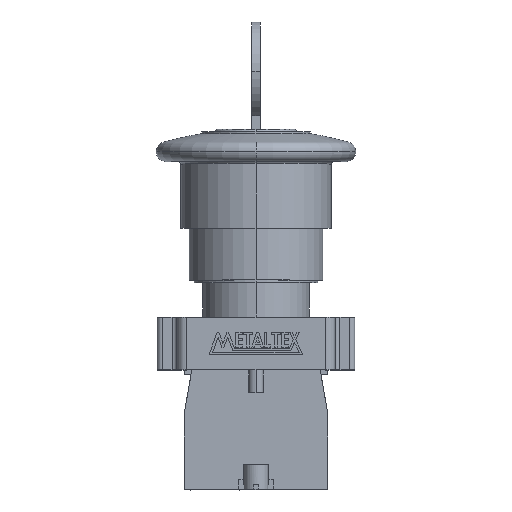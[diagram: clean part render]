
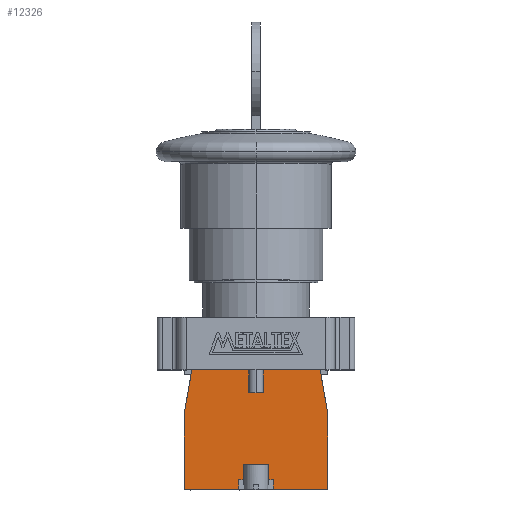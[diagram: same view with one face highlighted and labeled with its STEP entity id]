
A CAD part, top view. The second image highlights one B-rep face of the part: STEP entity #12326.
In plain terms, the highlighted planar face has unit normal (0, 0, 1).
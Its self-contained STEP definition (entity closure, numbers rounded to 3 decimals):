
#729 = ORIENTED_EDGE ( 'NONE', *, *, #12192, .T. ) ;
#730 = ORIENTED_EDGE ( 'NONE', *, *, #12193, .T. ) ;
#731 = ORIENTED_EDGE ( 'NONE', *, *, #12082, .T. ) ;
#732 = ORIENTED_EDGE ( 'NONE', *, *, #12031, .T. ) ;
#733 = ORIENTED_EDGE ( 'NONE', *, *, #12150, .T. ) ;
#734 = ORIENTED_EDGE ( 'NONE', *, *, #12194, .T. ) ;
#735 = ORIENTED_EDGE ( 'NONE', *, *, #12196, .T. ) ;
#736 = ORIENTED_EDGE ( 'NONE', *, *, #12195, .T. ) ;
#737 = ORIENTED_EDGE ( 'NONE', *, *, #12069, .F. ) ;
#738 = ORIENTED_EDGE ( 'NONE', *, *, #12197, .F. ) ;
#739 = ORIENTED_EDGE ( 'NONE', *, *, #12199, .F. ) ;
#740 = ORIENTED_EDGE ( 'NONE', *, *, #12198, .T. ) ;
#741 = ORIENTED_EDGE ( 'NONE', *, *, #12147, .T. ) ;
#742 = ORIENTED_EDGE ( 'NONE', *, *, #12024, .T. ) ;
#743 = ORIENTED_EDGE ( 'NONE', *, *, #12188, .T. ) ;
#744 = ORIENTED_EDGE ( 'NONE', *, *, #12035, .T. ) ;
#745 = ORIENTED_EDGE ( 'NONE', *, *, #12200, .F. ) ;
#747 = ORIENTED_EDGE ( 'NONE', *, *, #12075, .T. ) ;
#1642 = VERTEX_POINT ( 'NONE', #3569 ) ;
#1643 = VERTEX_POINT ( 'NONE', #3570 ) ;
#1646 = VERTEX_POINT ( 'NONE', #3573 ) ;
#1647 = VERTEX_POINT ( 'NONE', #3574 ) ;
#1665 = VERTEX_POINT ( 'NONE', #3592 ) ;
#1666 = VERTEX_POINT ( 'NONE', #3593 ) ;
#1667 = VERTEX_POINT ( 'NONE', #3594 ) ;
#1707 = VERTEX_POINT ( 'NONE', #3634 ) ;
#1708 = VERTEX_POINT ( 'NONE', #3635 ) ;
#1715 = VERTEX_POINT ( 'NONE', #3642 ) ;
#1717 = VERTEX_POINT ( 'NONE', #3644 ) ;
#1720 = VERTEX_POINT ( 'NONE', #3647 ) ;
#1721 = VERTEX_POINT ( 'NONE', #3648 ) ;
#2168 = VERTEX_POINT ( 'NONE', #4091 ) ;
#2169 = VERTEX_POINT ( 'NONE', #4092 ) ;
#2172 = VERTEX_POINT ( 'NONE', #4095 ) ;
#2173 = VERTEX_POINT ( 'NONE', #4096 ) ;
#2175 = VERTEX_POINT ( 'NONE', #4098 ) ;
#3284 = EDGE_LOOP ( 'NONE', ( #730, #732, #729, #731, #733, #734, #736, #735, #737, #738, #740, #739, #741, #743, #742, #744, #745, #747 ) ) ;
#3569 = CARTESIAN_POINT ( 'NONE',  ( 3.5, 2., 7.45 ) ) ;
#3570 = CARTESIAN_POINT ( 'NONE',  ( -3.5, 0., 7.45 ) ) ;
#3573 = CARTESIAN_POINT ( 'NONE',  ( 14.5, 0., 7.45 ) ) ;
#3574 = CARTESIAN_POINT ( 'NONE',  ( 3.5, 0., 7.45 ) ) ;
#3592 = CARTESIAN_POINT ( 'NONE',  ( 2.6, 2., 7.45 ) ) ;
#3593 = CARTESIAN_POINT ( 'NONE',  ( -2.6, 2., 7.45 ) ) ;
#3594 = CARTESIAN_POINT ( 'NONE',  ( -3.5, 2., 7.45 ) ) ;
#3634 = CARTESIAN_POINT ( 'NONE',  ( -14.5, 15.5, 7.45 ) ) ;
#3635 = CARTESIAN_POINT ( 'NONE',  ( -14.5, 0., 7.45 ) ) ;
#3642 = CARTESIAN_POINT ( 'NONE',  ( -1.5, 19.6, 7.45 ) ) ;
#3644 = CARTESIAN_POINT ( 'NONE',  ( 1.5, 19.6, 7.45 ) ) ;
#3647 = CARTESIAN_POINT ( 'NONE',  ( -2.6, 5., 7.45 ) ) ;
#3648 = CARTESIAN_POINT ( 'NONE',  ( 2.6, 5., 7.45 ) ) ;
#4091 = CARTESIAN_POINT ( 'NONE',  ( 13., 24.2, 7.45 ) ) ;
#4092 = CARTESIAN_POINT ( 'NONE',  ( 14.5, 15.5, 7.45 ) ) ;
#4095 = CARTESIAN_POINT ( 'NONE',  ( -13., 24.2, 7.45 ) ) ;
#4096 = CARTESIAN_POINT ( 'NONE',  ( -1.5, 24.2, 7.45 ) ) ;
#4098 = CARTESIAN_POINT ( 'NONE',  ( 1.5, 24.2, 7.45 ) ) ;
#5876 = VECTOR ( 'NONE', #6945, 1000. ) ;
#5884 = VECTOR ( 'NONE', #6966, 1000. ) ;
#5888 = VECTOR ( 'NONE', #6978, 1000. ) ;
#5921 = VECTOR ( 'NONE', #7080, 1000. ) ;
#5928 = VECTOR ( 'NONE', #7098, 1000. ) ;
#5935 = VECTOR ( 'NONE', #7119, 1000. ) ;
#6943 = LINE ( 'NONE', #6944, #5876 ) ;
#6944 = CARTESIAN_POINT ( 'NONE',  ( 14.5, 15.5, 7.45 ) ) ;
#6945 = DIRECTION ( 'NONE',  ( -0.17, 0.985, 0. ) ) ;
#6964 = LINE ( 'NONE', #6965, #5884 ) ;
#6965 = CARTESIAN_POINT ( 'NONE',  ( 13., 24.2, 7.45 ) ) ;
#6966 = DIRECTION ( 'NONE',  ( -1., 0., 0. ) ) ;
#6976 = LINE ( 'NONE', #6977, #5888 ) ;
#6977 = CARTESIAN_POINT ( 'NONE',  ( 13., 24.2, 7.45 ) ) ;
#6978 = DIRECTION ( 'NONE',  ( -1., 0., 0. ) ) ;
#7078 = LINE ( 'NONE', #7079, #5921 ) ;
#7079 = CARTESIAN_POINT ( 'NONE',  ( 0., 5., 7.45 ) ) ;
#7080 = DIRECTION ( 'NONE',  ( -1., 0., 0. ) ) ;
#7096 = LINE ( 'NONE', #7097, #5928 ) ;
#7097 = CARTESIAN_POINT ( 'NONE',  ( 0., 19.6, 7.45 ) ) ;
#7098 = DIRECTION ( 'NONE',  ( -1., 0., 0. ) ) ;
#7117 = LINE ( 'NONE', #7118, #5935 ) ;
#7118 = CARTESIAN_POINT ( 'NONE',  ( -14.5, 15.5, 7.45 ) ) ;
#7119 = DIRECTION ( 'NONE',  ( 0., -1., 0. ) ) ;
#7532 = LINE ( 'NONE', #7533, #8318 ) ;
#7533 = CARTESIAN_POINT ( 'NONE',  ( -14.5, 0., 7.45 ) ) ;
#7534 = DIRECTION ( 'NONE',  ( 1., 0., 0. ) ) ;
#7541 = LINE ( 'NONE', #7542, #8321 ) ;
#7542 = CARTESIAN_POINT ( 'NONE',  ( -14.5, 0., 7.45 ) ) ;
#7543 = DIRECTION ( 'NONE',  ( 1., 0., 0. ) ) ;
#7655 = LINE ( 'NONE', #7656, #8360 ) ;
#7656 = CARTESIAN_POINT ( 'NONE',  ( 14.5, 0., 7.45 ) ) ;
#7657 = DIRECTION ( 'NONE',  ( 0., 1., 0. ) ) ;
#7667 = LINE ( 'NONE', #7668, #8364 ) ;
#7668 = CARTESIAN_POINT ( 'NONE',  ( -13., 24.2, 7.45 ) ) ;
#7669 = DIRECTION ( 'NONE',  ( -0.17, -0.985, 0. ) ) ;
#7670 = LINE ( 'NONE', #7671, #8365 ) ;
#7671 = CARTESIAN_POINT ( 'NONE',  ( -1.5, 19.6, 7.45 ) ) ;
#7672 = DIRECTION ( 'NONE',  ( 0., 1., 0. ) ) ;
#7673 = LINE ( 'NONE', #7674, #8366 ) ;
#7674 = CARTESIAN_POINT ( 'NONE',  ( -3.5, 0., 7.45 ) ) ;
#7675 = DIRECTION ( 'NONE',  ( 0., 1., 0. ) ) ;
#7676 = LINE ( 'NONE', #7677, #8367 ) ;
#7677 = CARTESIAN_POINT ( 'NONE',  ( 0., 2., 7.45 ) ) ;
#7678 = DIRECTION ( 'NONE',  ( 1., 0., 0. ) ) ;
#7679 = LINE ( 'NONE', #7680, #8368 ) ;
#7680 = CARTESIAN_POINT ( 'NONE',  ( -2.6, 0., 7.45 ) ) ;
#7681 = DIRECTION ( 'NONE',  ( 0., 1., 0. ) ) ;
#7682 = LINE ( 'NONE', #7683, #8370 ) ;
#7683 = CARTESIAN_POINT ( 'NONE',  ( 2.6, 0., 7.45 ) ) ;
#7684 = DIRECTION ( 'NONE',  ( 0., 1., 0. ) ) ;
#7685 = LINE ( 'NONE', #7686, #8371 ) ;
#7686 = CARTESIAN_POINT ( 'NONE',  ( 0., 2., 7.45 ) ) ;
#7687 = DIRECTION ( 'NONE',  ( 1., 0., 0. ) ) ;
#7688 = LINE ( 'NONE', #7689, #8372 ) ;
#7689 = CARTESIAN_POINT ( 'NONE',  ( 3.5, 0., 7.45 ) ) ;
#7690 = DIRECTION ( 'NONE',  ( 0., 1., 0. ) ) ;
#7691 = LINE ( 'NONE', #7692, #8373 ) ;
#7692 = CARTESIAN_POINT ( 'NONE',  ( 1.5, 19.6, 7.45 ) ) ;
#7693 = DIRECTION ( 'NONE',  ( 0., 1., 0. ) ) ;
#8138 = PLANE ( 'NONE',  #8622 ) ;
#8139 = CARTESIAN_POINT ( 'NONE',  ( 0., 0., 7.45 ) ) ;
#8140 = DIRECTION ( 'NONE',  ( 0., 0., 1. ) ) ;
#8141 = DIRECTION ( 'NONE',  ( 1., 0., 0. ) ) ;
#8318 = VECTOR ( 'NONE', #7534, 1000. ) ;
#8321 = VECTOR ( 'NONE', #7543, 1000. ) ;
#8360 = VECTOR ( 'NONE', #7657, 1000. ) ;
#8364 = VECTOR ( 'NONE', #7669, 1000. ) ;
#8365 = VECTOR ( 'NONE', #7672, 1000. ) ;
#8366 = VECTOR ( 'NONE', #7675, 1000. ) ;
#8367 = VECTOR ( 'NONE', #7678, 1000. ) ;
#8368 = VECTOR ( 'NONE', #7681, 1000. ) ;
#8370 = VECTOR ( 'NONE', #7684, 1000. ) ;
#8371 = VECTOR ( 'NONE', #7687, 1000. ) ;
#8372 = VECTOR ( 'NONE', #7690, 1000. ) ;
#8373 = VECTOR ( 'NONE', #7693, 1000. ) ;
#8619 = FACE_OUTER_BOUND ( 'NONE', #3284, .T. ) ;
#8622 = AXIS2_PLACEMENT_3D ( 'NONE', #8139, #8140, #8141 ) ;
#12024 = EDGE_CURVE ( 'NONE', #2169, #2168, #6943, .T. ) ;
#12031 = EDGE_CURVE ( 'NONE', #2173, #2172, #6964, .T. ) ;
#12035 = EDGE_CURVE ( 'NONE', #2168, #2175, #6976, .T. ) ;
#12069 = EDGE_CURVE ( 'NONE', #1721, #1720, #7078, .T. ) ;
#12075 = EDGE_CURVE ( 'NONE', #1717, #1715, #7096, .T. ) ;
#12082 = EDGE_CURVE ( 'NONE', #1707, #1708, #7117, .T. ) ;
#12147 = EDGE_CURVE ( 'NONE', #1647, #1646, #7532, .T. ) ;
#12150 = EDGE_CURVE ( 'NONE', #1708, #1643, #7541, .T. ) ;
#12188 = EDGE_CURVE ( 'NONE', #1646, #2169, #7655, .T. ) ;
#12192 = EDGE_CURVE ( 'NONE', #2172, #1707, #7667, .T. ) ;
#12193 = EDGE_CURVE ( 'NONE', #1715, #2173, #7670, .T. ) ;
#12194 = EDGE_CURVE ( 'NONE', #1643, #1667, #7673, .T. ) ;
#12195 = EDGE_CURVE ( 'NONE', #1667, #1666, #7676, .T. ) ;
#12196 = EDGE_CURVE ( 'NONE', #1666, #1720, #7679, .T. ) ;
#12197 = EDGE_CURVE ( 'NONE', #1665, #1721, #7682, .T. ) ;
#12198 = EDGE_CURVE ( 'NONE', #1665, #1642, #7685, .T. ) ;
#12199 = EDGE_CURVE ( 'NONE', #1647, #1642, #7688, .T. ) ;
#12200 = EDGE_CURVE ( 'NONE', #1717, #2175, #7691, .T. ) ;
#12326 = ADVANCED_FACE ( 'NONE', ( #8619 ), #8138, .T. ) ;
